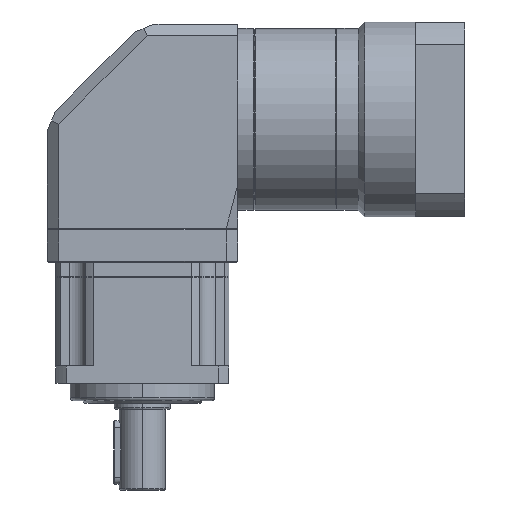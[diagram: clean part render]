
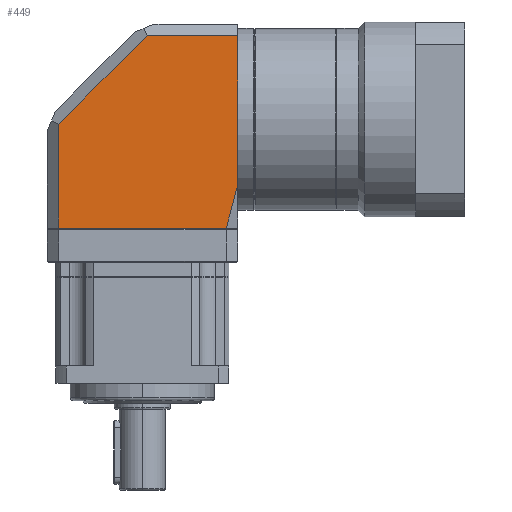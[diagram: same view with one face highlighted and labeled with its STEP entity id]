
A CAD part, left-side view. The second image highlights one B-rep face of the part: STEP entity #449.
In plain terms, the highlighted planar face has unit normal (-1, 0, 0).
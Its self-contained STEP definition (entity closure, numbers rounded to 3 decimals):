
#191=PLANE('',#4827);
#449=ADVANCED_FACE('',(#762),#191,.F.);
#762=FACE_OUTER_BOUND('',#1038,.T.);
#1038=EDGE_LOOP('',(#1906,#1907,#1908,#1909,#1910,#1911));
#1906=ORIENTED_EDGE('',*,*,#3461,.T.);
#1907=ORIENTED_EDGE('',*,*,#3419,.T.);
#1908=ORIENTED_EDGE('',*,*,#3429,.F.);
#1909=ORIENTED_EDGE('',*,*,#3466,.F.);
#1910=ORIENTED_EDGE('',*,*,#3455,.T.);
#1911=ORIENTED_EDGE('',*,*,#3459,.T.);
#2938=VERTEX_POINT('',#7096);
#2940=VERTEX_POINT('',#7100);
#2945=VERTEX_POINT('',#7119);
#2964=VERTEX_POINT('',#7171);
#2965=VERTEX_POINT('',#7173);
#2966=VERTEX_POINT('',#7178);
#3419=EDGE_CURVE('',#2938,#2940,#3983,.T.);
#3429=EDGE_CURVE('',#2945,#2940,#3993,.T.);
#3455=EDGE_CURVE('',#2965,#2964,#4019,.T.);
#3459=EDGE_CURVE('',#2964,#2966,#4023,.T.);
#3461=EDGE_CURVE('',#2966,#2938,#4025,.T.);
#3466=EDGE_CURVE('',#2965,#2945,#4029,.T.);
#3983=LINE('',#7101,#4384);
#3993=LINE('',#7120,#4394);
#4019=LINE('',#7172,#4420);
#4023=LINE('',#7179,#4424);
#4025=LINE('',#7182,#4426);
#4029=LINE('',#7194,#4430);
#4384=VECTOR('',#5611,1.);
#4394=VECTOR('',#5629,1.);
#4420=VECTOR('',#5669,1.);
#4424=VECTOR('',#5675,1.);
#4426=VECTOR('',#5679,1.);
#4430=VECTOR('',#5695,1.);
#4827=AXIS2_PLACEMENT_3D('',#7195,#5696,#5697);
#5611=DIRECTION('',(0.,-1.,0.));
#5629=DIRECTION('',(0.,0.258,-0.966));
#5669=DIRECTION('',(0.,1.,0.));
#5675=DIRECTION('',(0.,0.707,-0.707));
#5679=DIRECTION('',(0.,0.,-1.));
#5695=DIRECTION('',(0.,0.,-1.));
#5696=DIRECTION('',(1.,0.,0.));
#5697=DIRECTION('',(0.,0.,-1.));
#7096=CARTESIAN_POINT('',(-33.,29.,53.8));
#7100=CARTESIAN_POINT('',(-33.,-29.08,53.8));
#7101=CARTESIAN_POINT('',(-33.,-33.,53.8));
#7119=CARTESIAN_POINT('',(-33.,-33.,68.5));
#7120=CARTESIAN_POINT('',(-33.,-46.942,120.782));
#7171=CARTESIAN_POINT('',(-33.,-1.657,120.5));
#7172=CARTESIAN_POINT('',(-33.,0.,120.5));
#7173=CARTESIAN_POINT('',(-33.,-33.,120.5));
#7178=CARTESIAN_POINT('',(-33.,29.,89.843));
#7179=CARTESIAN_POINT('',(-33.,30.172,88.672));
#7182=CARTESIAN_POINT('',(-33.,29.,124.5));
#7194=CARTESIAN_POINT('',(-33.,-33.,124.5));
#7195=CARTESIAN_POINT('',(-33.,-33.,124.5));
